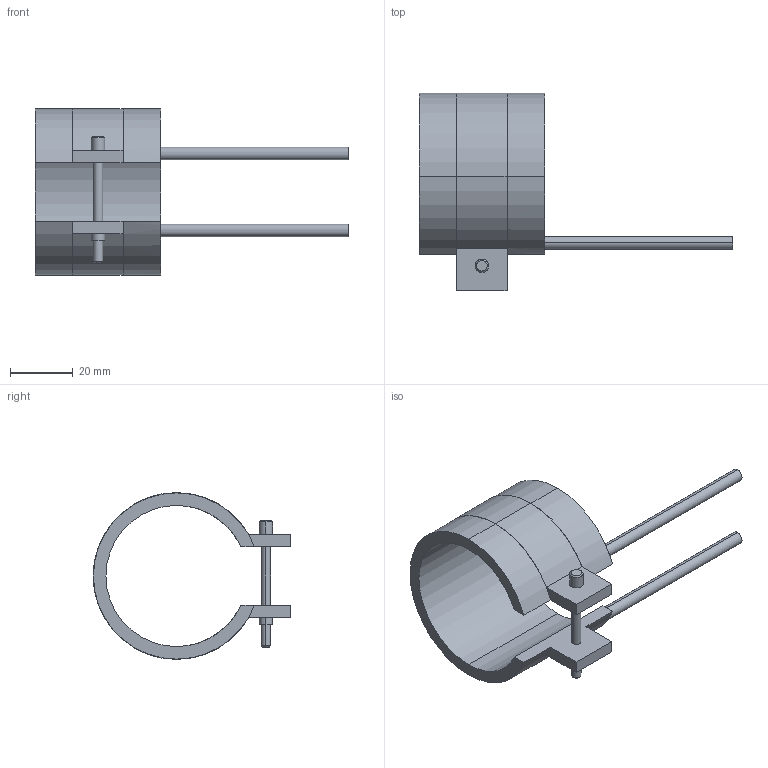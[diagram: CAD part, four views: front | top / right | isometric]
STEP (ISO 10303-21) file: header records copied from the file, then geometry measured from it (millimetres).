
FILE_DESCRIPTION(('CATIA V5 STEP Exchange'),'2;1');
FILE_NAME('C:\Users\Utente\Desktop\IO LAVORO\3D X SITO CF\X SITO\PLASTICA\RF2\14045040.stp','2021-03-31T11:58:20+00:00',('none'),('none'),'CATIA Version 5 Release 20 GA (IN-10)','CATIA V5 STEP AP203','none');
FILE_SCHEMA(('CONFIG_CONTROL_DESIGN'));
Length unit declared in the file: millimetre
Products named in the file (1): 14045040
Bounding box: 100 x 63.1 x 53.2 mm (x, y, z)
Volume: 25207.2 mm3; surface area: 15071.2 mm2
Topology: 1 solids, 1 shells, 45 faces, 116 edges, 76 vertices
Faces by surface type: cylinder 24, plane 17, cone 4
Entity records: 1406 total; most frequent: CARTESIAN_POINT 282, ORIENTED_EDGE 232, DIRECTION 195, EDGE_CURVE 116, AXIS2_PLACEMENT_3D 103, VERTEX_POINT 76, CIRCLE 61, VECTOR 52
